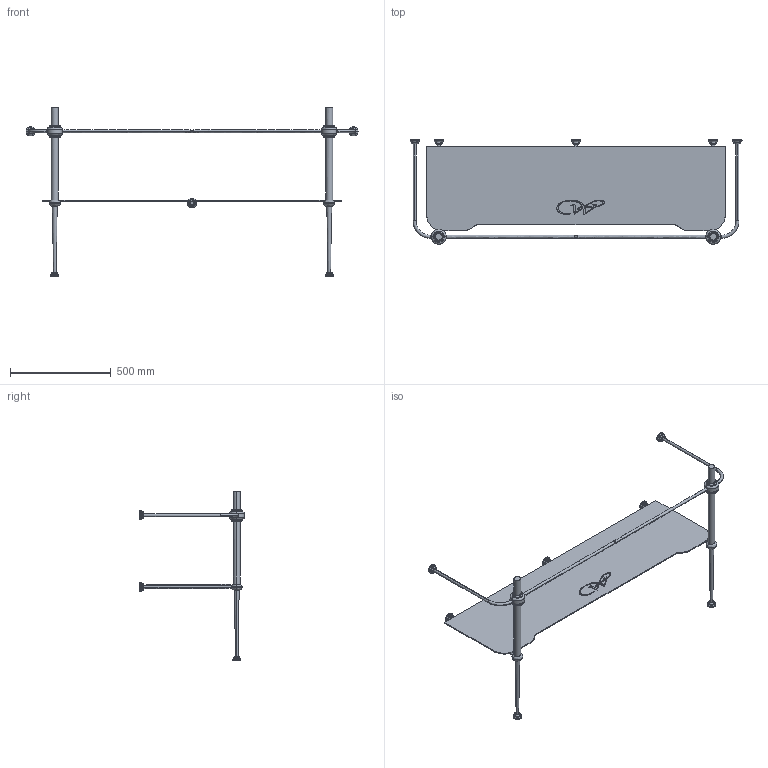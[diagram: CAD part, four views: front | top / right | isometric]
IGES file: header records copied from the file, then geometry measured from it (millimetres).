
Start section: SolidWorks IGES file using analytic representation for surfaces
Global section: file name: C:\Users\paolo.KERANET\Desktop\salvataggi\3D\Waldorf\strutture-metallo\9195-struttura-in-metall-metal-floor-standing-unit150cm.igs; native system: Rhinoceros ( Mar  9 2011 ); preprocessor: Trout Lake IGES 012 Mar  9 2011; date: 141016.145508; units: millimetre
Bounding box: 1645.1 x 516.72 x 840 mm (x, y, z)
Surface area: 1549333.9 mm2 (no closed solid volume)
Topology: 0 solids, 0 shells, 225 faces, 3555 edges, 3555 vertices
Faces by surface type: bspline 225
